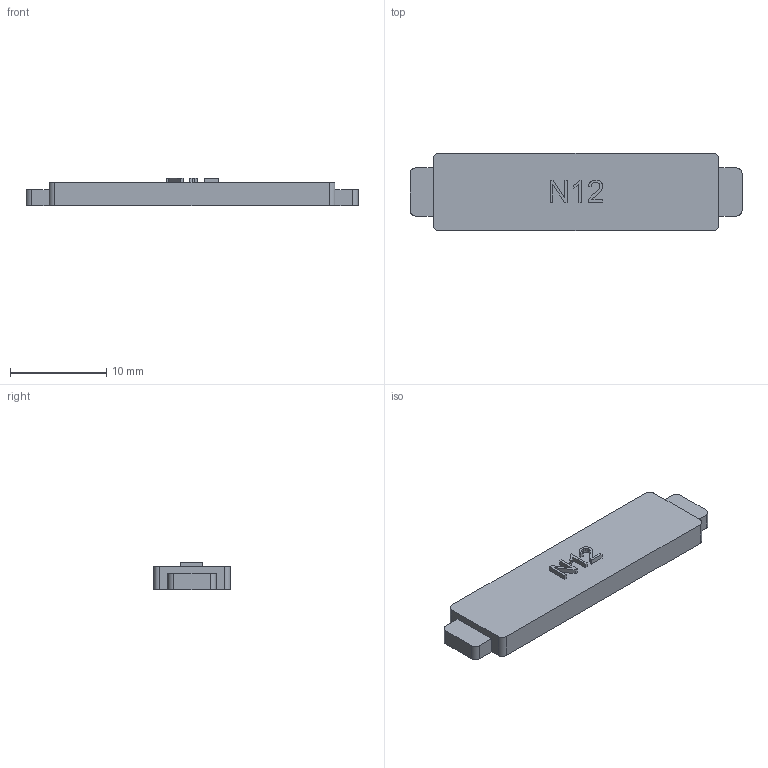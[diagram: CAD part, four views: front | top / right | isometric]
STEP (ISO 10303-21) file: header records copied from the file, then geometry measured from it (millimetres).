
FILE_DESCRIPTION(('Open CASCADE Model'),'2;1');
FILE_NAME('Open CASCADE Shape Model','1970-01-01T00:00:00',('Author'),( 'Open CASCADE'),'Open CASCADE STEP processor 7.8','Open CASCADE 7.8' ,'Unknown');
FILE_SCHEMA(('AUTOMOTIVE_DESIGN { 1 0 10303 214 1 1 1 1 }'));
Length unit declared in the file: millimetre
Products named in the file (2): Open CASCADE STEP translator 7.8 29; N12K neck keeper bar
Assembly tree (1 placements, depth 2):
  Open CASCADE STEP translator 7.8 29
    N12K neck keeper bar
Bounding box: 34.5 x 8 x 2.88 mm (x, y, z)
Volume: 611.3 mm3; surface area: 729.6 mm2
Topology: 1 solids, 1 shells, 66 faces, 183 edges, 122 vertices
Faces by surface type: plane 36, extrusion 22, cylinder 8
Entity records: 4841 total; most frequent: CARTESIAN_POINT 1413, DIRECTION 515, VECTOR 379, ORIENTED_EDGE 366, PCURVE 366, DEFINITIONAL_REPRESENTATION 366, LINE 357, EDGE_CURVE 183
